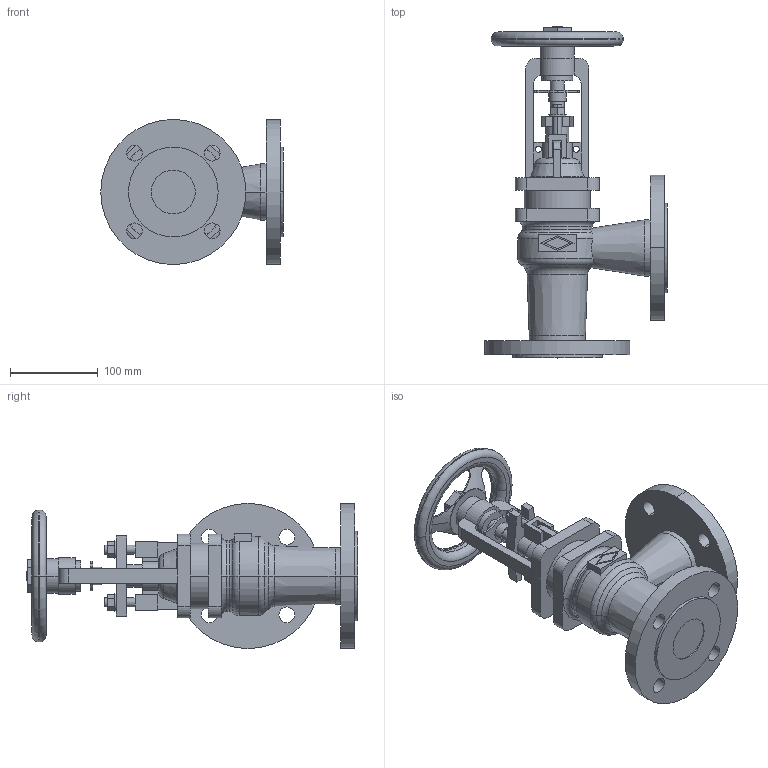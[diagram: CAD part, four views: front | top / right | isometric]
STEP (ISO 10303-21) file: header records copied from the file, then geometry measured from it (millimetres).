
FILE_DESCRIPTION(('OneSpaceDesigner STEP Export'),'2;1');
FILE_NAME('c000004439.stp','2010-05-17T 9:37:58',(''),(''),'OneSpace Designer STEP processor for AP214 (Solid Model)','OneSpace Modeling 15.50B 03-Nov-2007 (C) CoCreate Software GmbH','');
FILE_SCHEMA(('AUTOMOTIVE_DESIGN { 1 0 10303 214 1 1 1 1 }'));
Length unit declared in the file: millimetre
Products named in the file (1): 1
Bounding box: 207.5 x 377.4 x 165 mm (x, y, z)
Volume: 2203871.8 mm3; surface area: 267794.5 mm2
Topology: 1 solids, 1 shells, 297 faces, 792 edges, 520 vertices
Faces by surface type: plane 140, cylinder 113, torus 28, cone 16
Entity records: 11650 total; most frequent: CARTESIAN_POINT 2233, ORIENTED_EDGE 1576, DIRECTION 1313, EDGE_CURVE 788, VERTEX_POINT 516, AXIS2_PLACEMENT_3D 452, VECTOR 409, LINE 409
